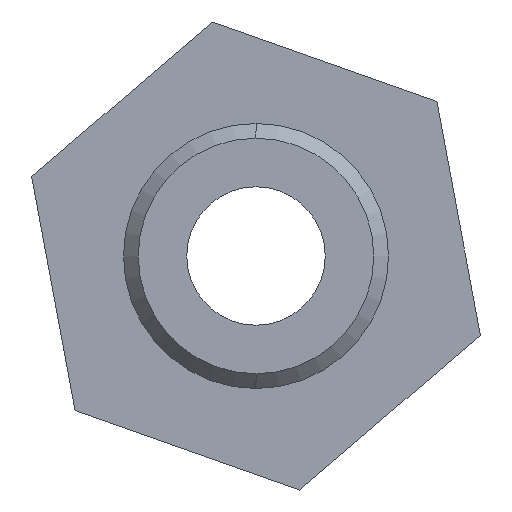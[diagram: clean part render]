
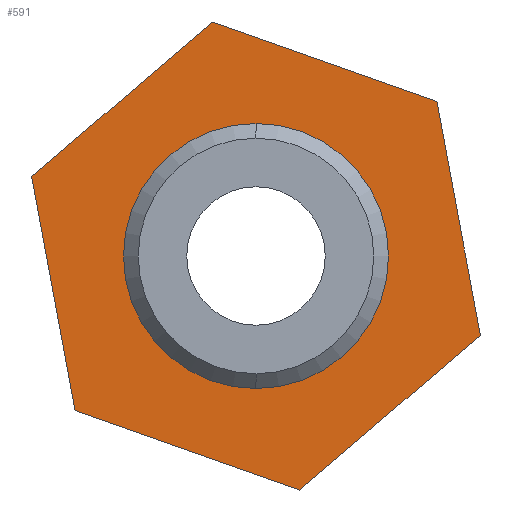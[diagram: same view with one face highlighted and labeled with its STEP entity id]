
A CAD part, left-side view. The second image highlights one B-rep face of the part: STEP entity #591.
In plain terms, the highlighted planar face has unit normal (-1, 0, 0).
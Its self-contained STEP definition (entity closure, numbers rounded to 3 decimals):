
#3 = DIRECTION ( 'NONE',  ( 1., 0., 0. ) ) ;
#36 = EDGE_CURVE ( 'NONE', #346, #810, #370, .T. ) ;
#41 = EDGE_LOOP ( 'NONE', ( #529, #135 ) ) ;
#59 = VERTEX_POINT ( 'NONE', #388 ) ;
#71 = EDGE_CURVE ( 'NONE', #59, #227, #154, .T. ) ;
#75 = VECTOR ( 'NONE', #768, 1000. ) ;
#135 = ORIENTED_EDGE ( 'NONE', *, *, #583, .F. ) ;
#138 = LINE ( 'NONE', #679, #314 ) ;
#154 = CIRCLE ( 'NONE', #909, 4.5 ) ;
#158 = DIRECTION ( 'NONE',  ( 0., 0., -1. ) ) ;
#179 = CARTESIAN_POINT ( 'NONE',  ( 14.5, 7.62, 2.695 ) ) ;
#188 = CARTESIAN_POINT ( 'NONE',  ( 14.5, 6.144, -5.252 ) ) ;
#199 = LINE ( 'NONE', #410, #75 ) ;
#205 = CARTESIAN_POINT ( 'NONE',  ( 14.5, -6.144, 5.252 ) ) ;
#212 = VECTOR ( 'NONE', #418, 1000. ) ;
#227 = VERTEX_POINT ( 'NONE', #877 ) ;
#232 = LINE ( 'NONE', #205, #774 ) ;
#236 = ORIENTED_EDGE ( 'NONE', *, *, #36, .F. ) ;
#245 = FACE_OUTER_BOUND ( 'NONE', #826, .T. ) ;
#283 = DIRECTION ( 'NONE',  ( -1., 0., 0. ) ) ;
#287 = DIRECTION ( 'NONE',  ( 0., 0., 1. ) ) ;
#301 = CARTESIAN_POINT ( 'NONE',  ( 14.5, 0., 0. ) ) ;
#314 = VECTOR ( 'NONE', #334, 1000. ) ;
#334 = DIRECTION ( 'NONE',  ( 0., 0.943, 0.333 ) ) ;
#346 = VERTEX_POINT ( 'NONE', #188 ) ;
#353 = AXIS2_PLACEMENT_3D ( 'NONE', #301, #3, #158 ) ;
#356 = VERTEX_POINT ( 'NONE', #397 ) ;
#361 = EDGE_CURVE ( 'NONE', #878, #356, #232, .T. ) ;
#370 = LINE ( 'NONE', #602, #440 ) ;
#388 = CARTESIAN_POINT ( 'NONE',  ( 14.5, 0., 4.5 ) ) ;
#395 = CARTESIAN_POINT ( 'NONE',  ( 14.5, 1.476, 7.947 ) ) ;
#397 = CARTESIAN_POINT ( 'NONE',  ( 14.5, -7.62, -2.695 ) ) ;
#410 = CARTESIAN_POINT ( 'NONE',  ( 14.5, 7.62, 2.695 ) ) ;
#418 = DIRECTION ( 'NONE',  ( 0., 0.76, -0.65 ) ) ;
#419 = ORIENTED_EDGE ( 'NONE', *, *, #473, .F. ) ;
#427 = VERTEX_POINT ( 'NONE', #395 ) ;
#440 = VECTOR ( 'NONE', #740, 1000. ) ;
#446 = CARTESIAN_POINT ( 'NONE',  ( 14.5, 1.476, 7.947 ) ) ;
#452 = ORIENTED_EDGE ( 'NONE', *, *, #886, .F. ) ;
#473 = EDGE_CURVE ( 'NONE', #810, #427, #199, .T. ) ;
#529 = ORIENTED_EDGE ( 'NONE', *, *, #71, .F. ) ;
#535 = CARTESIAN_POINT ( 'NONE',  ( 14.5, 0., 0. ) ) ;
#545 = DIRECTION ( 'NONE',  ( 0., -0.183, -0.983 ) ) ;
#560 = EDGE_CURVE ( 'NONE', #356, #689, #805, .T. ) ;
#583 = EDGE_CURVE ( 'NONE', #227, #59, #869, .T. ) ;
#591 = ADVANCED_FACE ( 'NONE', ( #708, #245 ), #783, .F. ) ;
#602 = CARTESIAN_POINT ( 'NONE',  ( 14.5, 6.144, -5.252 ) ) ;
#610 = VECTOR ( 'NONE', #730, 1000. ) ;
#621 = AXIS2_PLACEMENT_3D ( 'NONE', #716, #283, #287 ) ;
#646 = ORIENTED_EDGE ( 'NONE', *, *, #707, .F. ) ;
#656 = CARTESIAN_POINT ( 'NONE',  ( 14.5, -1.476, -7.947 ) ) ;
#679 = CARTESIAN_POINT ( 'NONE',  ( 14.5, -1.476, -7.947 ) ) ;
#689 = VERTEX_POINT ( 'NONE', #656 ) ;
#698 = ORIENTED_EDGE ( 'NONE', *, *, #560, .F. ) ;
#707 = EDGE_CURVE ( 'NONE', #427, #878, #794, .T. ) ;
#708 = FACE_BOUND ( 'NONE', #41, .T. ) ;
#716 = CARTESIAN_POINT ( 'NONE',  ( 14.5, 0., 0. ) ) ;
#730 = DIRECTION ( 'NONE',  ( 0., -0.943, -0.333 ) ) ;
#740 = DIRECTION ( 'NONE',  ( 0., 0.183, 0.983 ) ) ;
#768 = DIRECTION ( 'NONE',  ( 0., -0.76, 0.65 ) ) ;
#774 = VECTOR ( 'NONE', #545, 1000. ) ;
#783 = PLANE ( 'NONE',  #353 ) ;
#794 = LINE ( 'NONE', #446, #610 ) ;
#805 = LINE ( 'NONE', #834, #212 ) ;
#810 = VERTEX_POINT ( 'NONE', #179 ) ;
#812 = DIRECTION ( 'NONE',  ( -1., 0., 0. ) ) ;
#821 = CARTESIAN_POINT ( 'NONE',  ( 14.5, -6.144, 5.252 ) ) ;
#826 = EDGE_LOOP ( 'NONE', ( #236, #452, #698, #900, #646, #419 ) ) ;
#834 = CARTESIAN_POINT ( 'NONE',  ( 14.5, -7.62, -2.695 ) ) ;
#869 = CIRCLE ( 'NONE', #621, 4.5 ) ;
#877 = CARTESIAN_POINT ( 'NONE',  ( 14.5, 0., -4.5 ) ) ;
#878 = VERTEX_POINT ( 'NONE', #821 ) ;
#879 = DIRECTION ( 'NONE',  ( 0., 0., 1. ) ) ;
#886 = EDGE_CURVE ( 'NONE', #689, #346, #138, .T. ) ;
#900 = ORIENTED_EDGE ( 'NONE', *, *, #361, .F. ) ;
#909 = AXIS2_PLACEMENT_3D ( 'NONE', #535, #812, #879 ) ;
